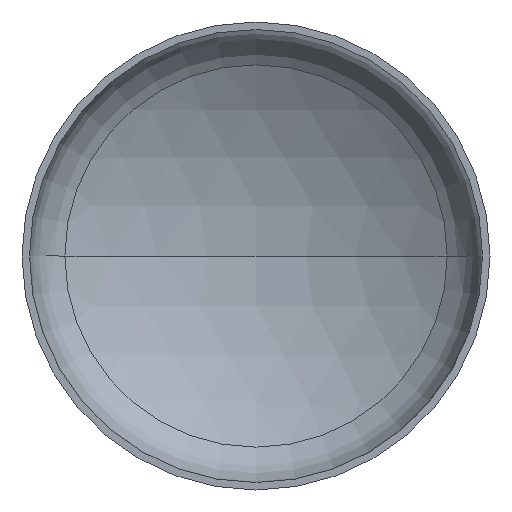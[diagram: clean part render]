
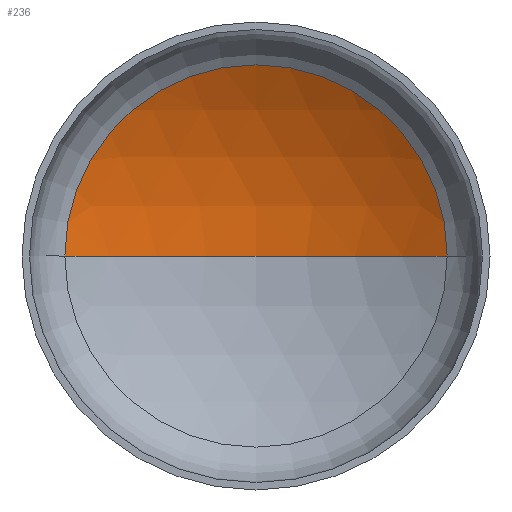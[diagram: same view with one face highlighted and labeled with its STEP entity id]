
A CAD part, front view. The second image highlights one B-rep face of the part: STEP entity #236.
In plain terms, the highlighted spherical face has radius 5600 mm.
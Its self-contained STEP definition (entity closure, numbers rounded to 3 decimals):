
#7 = VERTEX_POINT ( 'NONE', #60 ) ;
#15 = ORIENTED_EDGE ( 'NONE', *, *, #129, .T. ) ;
#18 = VERTEX_POINT ( 'NONE', #340 ) ;
#25 = DIRECTION ( 'NONE',  ( 0., 0., 1. ) ) ;
#26 = ORIENTED_EDGE ( 'NONE', *, *, #132, .T. ) ;
#30 = AXIS2_PLACEMENT_3D ( 'NONE', #219, #240, #134 ) ;
#36 = CARTESIAN_POINT ( 'NONE',  ( 0., -3811.327, 0. ) ) ;
#41 = CARTESIAN_POINT ( 'NONE',  ( 0., 1003.591, 0. ) ) ;
#43 = SPHERICAL_SURFACE ( 'NONE', #30, 5600. ) ;
#59 = ORIENTED_EDGE ( 'NONE', *, *, #133, .F. ) ;
#60 = CARTESIAN_POINT ( 'NONE',  ( 2859.469, 1003.591, 0. ) ) ;
#64 = AXIS2_PLACEMENT_3D ( 'NONE', #36, #25, #156 ) ;
#67 = AXIS2_PLACEMENT_3D ( 'NONE', #75, #111, #257 ) ;
#73 = AXIS2_PLACEMENT_3D ( 'NONE', #41, #93, #121 ) ;
#75 = CARTESIAN_POINT ( 'NONE',  ( 0., -3811.327, 0. ) ) ;
#93 = DIRECTION ( 'NONE',  ( 0., -1., 0. ) ) ;
#98 = VERTEX_POINT ( 'NONE', #226 ) ;
#100 = EDGE_LOOP ( 'NONE', ( #59, #26, #15 ) ) ;
#111 = DIRECTION ( 'NONE',  ( 0., 0., -1. ) ) ;
#116 = CIRCLE ( 'NONE', #64, 5600. ) ;
#121 = DIRECTION ( 'NONE',  ( 1., 0., 0. ) ) ;
#129 = EDGE_CURVE ( 'NONE', #7, #18, #268, .T. ) ;
#132 = EDGE_CURVE ( 'NONE', #98, #7, #210, .T. ) ;
#133 = EDGE_CURVE ( 'NONE', #98, #18, #116, .T. ) ;
#134 = DIRECTION ( 'NONE',  ( -1., 0., 0. ) ) ;
#156 = DIRECTION ( 'NONE',  ( 1., 0., 0. ) ) ;
#190 = FACE_OUTER_BOUND ( 'NONE', #100, .T. ) ;
#210 = CIRCLE ( 'NONE', #67, 5600. ) ;
#219 = CARTESIAN_POINT ( 'NONE',  ( 0., -3811.327, 0. ) ) ;
#226 = CARTESIAN_POINT ( 'NONE',  ( 0., 1788.673, 0. ) ) ;
#236 = ADVANCED_FACE ( 'NONE', ( #190 ), #43, .F. ) ;
#240 = DIRECTION ( 'NONE',  ( 0., 0., -1. ) ) ;
#257 = DIRECTION ( 'NONE',  ( -1., 0., 0. ) ) ;
#268 = CIRCLE ( 'NONE', #73, 2859.469 ) ;
#340 = CARTESIAN_POINT ( 'NONE',  ( -2859.469, 1003.591, 0. ) ) ;
